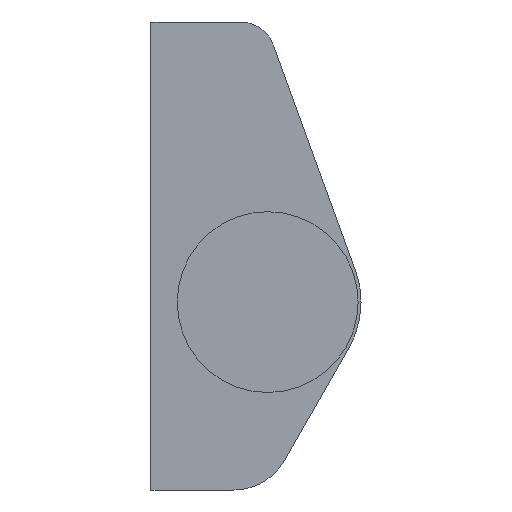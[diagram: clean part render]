
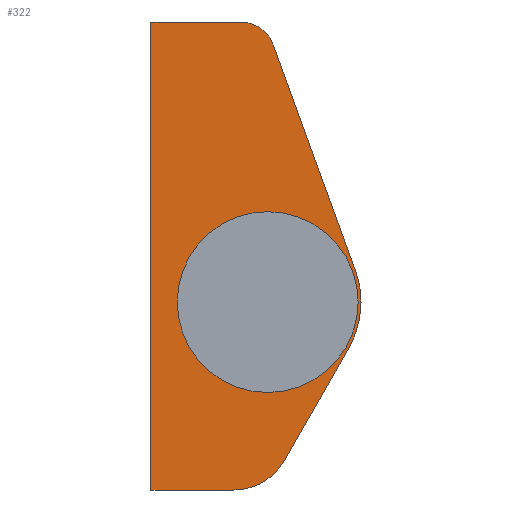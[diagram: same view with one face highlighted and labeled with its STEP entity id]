
A CAD part, front view. The second image highlights one B-rep face of the part: STEP entity #322.
In plain terms, the highlighted planar face has unit normal (0, -1, 0).
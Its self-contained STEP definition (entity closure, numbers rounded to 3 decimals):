
#4 = EDGE_CURVE ( 'NONE', #165, #180, #348, .T. ) ;
#7 = EDGE_CURVE ( 'NONE', #161, #169, #344, .T. ) ;
#8 = EDGE_CURVE ( 'NONE', #164, #163, #342, .T. ) ;
#16 = EDGE_CURVE ( 'NONE', #177, #176, #459, .T. ) ;
#17 = EDGE_CURVE ( 'NONE', #163, #165, #457, .T. ) ;
#23 = AXIS2_PLACEMENT_3D ( 'NONE', #216, #217, #218 ) ;
#25 = AXIS2_PLACEMENT_3D ( 'NONE', #228, #236, #237 ) ;
#26 = AXIS2_PLACEMENT_3D ( 'NONE', #235, #241, #242 ) ;
#27 = AXIS2_PLACEMENT_3D ( 'NONE', #245, #256, #257 ) ;
#33 = AXIS2_PLACEMENT_3D ( 'NONE', #99, #108, #109 ) ;
#40 = AXIS2_PLACEMENT_3D ( 'NONE', #213, #214, #215 ) ;
#42 = EDGE_CURVE ( 'NONE', #169, #167, #469, .T. ) ;
#44 = EDGE_CURVE ( 'NONE', #167, #164, #473, .T. ) ;
#45 = EDGE_CURVE ( 'NONE', #179, #178, #466, .T. ) ;
#50 = EDGE_CURVE ( 'NONE', #176, #177, #483, .T. ) ;
#54 = EDGE_CURVE ( 'NONE', #178, #161, #490, .T. ) ;
#55 = EDGE_CURVE ( 'NONE', #180, #179, #480, .T. ) ;
#64 = AXIS2_PLACEMENT_3D ( 'NONE', #261, #265, #266 ) ;
#99 = CARTESIAN_POINT ( 'NONE',  ( -2.322, 264., 21. ) ) ;
#107 = PLANE ( 'NONE',  #33 ) ;
#108 = DIRECTION ( 'NONE',  ( 0., 1., 0. ) ) ;
#109 = DIRECTION ( 'NONE',  ( -1., 0., 0. ) ) ;
#160 = CARTESIAN_POINT ( 'NONE',  ( -10., 264., 24. ) ) ;
#161 = VERTEX_POINT ( 'NONE', #277 ) ;
#162 = CARTESIAN_POINT ( 'NONE',  ( 6.942, 264., -3.975 ) ) ;
#163 = VERTEX_POINT ( 'NONE', #283 ) ;
#164 = VERTEX_POINT ( 'NONE', #280 ) ;
#165 = VERTEX_POINT ( 'NONE', #284 ) ;
#167 = VERTEX_POINT ( 'NONE', #286 ) ;
#169 = VERTEX_POINT ( 'NONE', #287 ) ;
#176 = VERTEX_POINT ( 'NONE', #294 ) ;
#177 = VERTEX_POINT ( 'NONE', #295 ) ;
#178 = VERTEX_POINT ( 'NONE', #296 ) ;
#179 = VERTEX_POINT ( 'NONE', #297 ) ;
#180 = VERTEX_POINT ( 'NONE', #298 ) ;
#188 = DIRECTION ( 'NONE',  ( -1., 0., 0. ) ) ;
#196 = DIRECTION ( 'NONE',  ( 0.497, 0., 0.868 ) ) ;
#197 = CARTESIAN_POINT ( 'NONE',  ( 0.497, 264., 22.026 ) ) ;
#198 = DIRECTION ( 'NONE',  ( -0.342, 0., 0.94 ) ) ;
#213 = CARTESIAN_POINT ( 'NONE',  ( 0., 264., 0. ) ) ;
#214 = DIRECTION ( 'NONE',  ( 0., -1., 0. ) ) ;
#215 = DIRECTION ( 'NONE',  ( -1., 0., 0. ) ) ;
#216 = CARTESIAN_POINT ( 'NONE',  ( -2.322, 264., 21. ) ) ;
#217 = DIRECTION ( 'NONE',  ( 0., -1., 0. ) ) ;
#218 = DIRECTION ( 'NONE',  ( -1., 0., 0. ) ) ;
#228 = CARTESIAN_POINT ( 'NONE',  ( 0., 264., 0. ) ) ;
#235 = CARTESIAN_POINT ( 'NONE',  ( 0., 264., 0. ) ) ;
#236 = DIRECTION ( 'NONE',  ( 0., -1., 0. ) ) ;
#237 = DIRECTION ( 'NONE',  ( -1., 0., 0. ) ) ;
#241 = DIRECTION ( 'NONE',  ( 0., -1., 0. ) ) ;
#242 = DIRECTION ( 'NONE',  ( -1., 0., 0. ) ) ;
#243 = CARTESIAN_POINT ( 'NONE',  ( -2.899, 264., -16.1 ) ) ;
#244 = DIRECTION ( 'NONE',  ( 1., 0., 0. ) ) ;
#245 = CARTESIAN_POINT ( 'NONE',  ( 0., 264., 0. ) ) ;
#256 = DIRECTION ( 'NONE',  ( 0., -1., 0. ) ) ;
#257 = DIRECTION ( 'NONE',  ( -1., 0., 0. ) ) ;
#261 = CARTESIAN_POINT ( 'NONE',  ( -2.899, 264., -11.1 ) ) ;
#265 = DIRECTION ( 'NONE',  ( 0., -1., 0. ) ) ;
#266 = DIRECTION ( 'NONE',  ( -1., 0., 0. ) ) ;
#267 = CARTESIAN_POINT ( 'NONE',  ( -10., 264., -16.1 ) ) ;
#268 = DIRECTION ( 'NONE',  ( 0., 0., -1. ) ) ;
#277 = CARTESIAN_POINT ( 'NONE',  ( 1.44, 264., -13.584 ) ) ;
#280 = CARTESIAN_POINT ( 'NONE',  ( 7.518, 264., 2.736 ) ) ;
#283 = CARTESIAN_POINT ( 'NONE',  ( 0.497, 264., 22.026 ) ) ;
#284 = CARTESIAN_POINT ( 'NONE',  ( -2.322, 264., 24. ) ) ;
#286 = CARTESIAN_POINT ( 'NONE',  ( 8., 264., 0. ) ) ;
#287 = CARTESIAN_POINT ( 'NONE',  ( 6.942, 264., -3.975 ) ) ;
#294 = CARTESIAN_POINT ( 'NONE',  ( 6., 264., 0. ) ) ;
#295 = CARTESIAN_POINT ( 'NONE',  ( -6., 264., 0. ) ) ;
#296 = CARTESIAN_POINT ( 'NONE',  ( -2.899, 264., -16.1 ) ) ;
#297 = CARTESIAN_POINT ( 'NONE',  ( -10., 264., -16.1 ) ) ;
#298 = CARTESIAN_POINT ( 'NONE',  ( -10., 264., 24. ) ) ;
#322 = ADVANCED_FACE ( 'NONE', ( #509, #510 ), #107, .F. ) ;
#341 = VECTOR ( 'NONE', #198, 1000. ) ;
#342 = LINE ( 'NONE', #197, #341 ) ;
#344 = LINE ( 'NONE', #162, #346 ) ;
#346 = VECTOR ( 'NONE', #196, 1000. ) ;
#347 = VECTOR ( 'NONE', #188, 1000. ) ;
#348 = LINE ( 'NONE', #160, #347 ) ;
#354 = EDGE_LOOP ( 'NONE', ( #408, #409, #410, #411, #412, #413, #414, #415, #416 ) ) ;
#356 = EDGE_LOOP ( 'NONE', ( #417, #418 ) ) ;
#408 = ORIENTED_EDGE ( 'NONE', *, *, #45, .T. ) ;
#409 = ORIENTED_EDGE ( 'NONE', *, *, #54, .T. ) ;
#410 = ORIENTED_EDGE ( 'NONE', *, *, #7, .T. ) ;
#411 = ORIENTED_EDGE ( 'NONE', *, *, #42, .T. ) ;
#412 = ORIENTED_EDGE ( 'NONE', *, *, #44, .T. ) ;
#413 = ORIENTED_EDGE ( 'NONE', *, *, #8, .T. ) ;
#414 = ORIENTED_EDGE ( 'NONE', *, *, #17, .T. ) ;
#415 = ORIENTED_EDGE ( 'NONE', *, *, #4, .T. ) ;
#416 = ORIENTED_EDGE ( 'NONE', *, *, #55, .T. ) ;
#417 = ORIENTED_EDGE ( 'NONE', *, *, #16, .F. ) ;
#418 = ORIENTED_EDGE ( 'NONE', *, *, #50, .F. ) ;
#457 = CIRCLE ( 'NONE', #23, 3. ) ;
#459 = CIRCLE ( 'NONE', #40, 6. ) ;
#464 = VECTOR ( 'NONE', #268, 1000. ) ;
#466 = LINE ( 'NONE', #243, #470 ) ;
#469 = CIRCLE ( 'NONE', #25, 8. ) ;
#470 = VECTOR ( 'NONE', #244, 1000. ) ;
#473 = CIRCLE ( 'NONE', #26, 8. ) ;
#480 = LINE ( 'NONE', #267, #464 ) ;
#483 = CIRCLE ( 'NONE', #27, 6. ) ;
#490 = CIRCLE ( 'NONE', #64, 5. ) ;
#509 = FACE_OUTER_BOUND ( 'NONE', #354, .T. ) ;
#510 = FACE_BOUND ( 'NONE', #356, .T. ) ;
